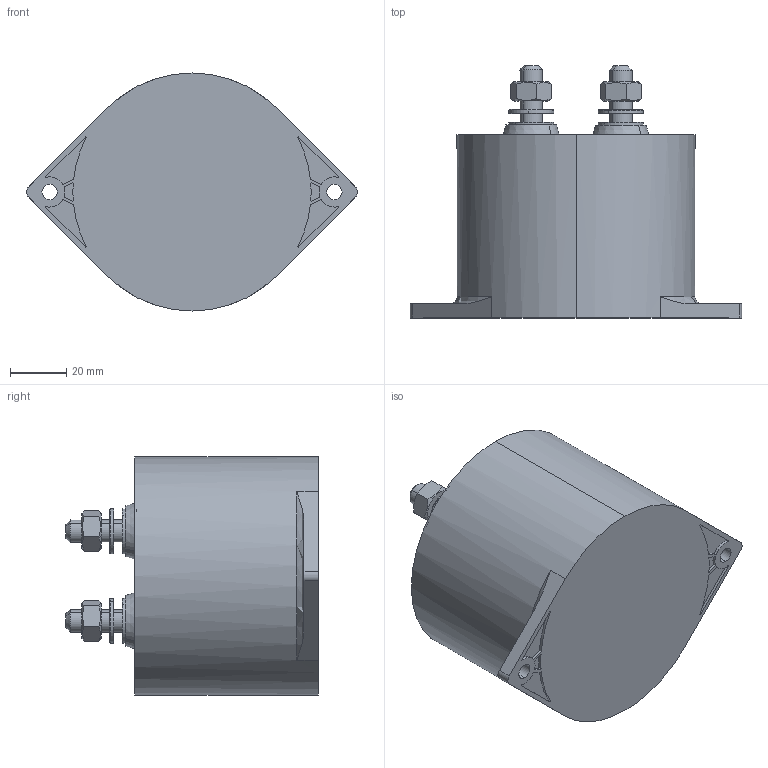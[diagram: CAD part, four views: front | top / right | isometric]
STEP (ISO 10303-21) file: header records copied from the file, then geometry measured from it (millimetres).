
FILE_DESCRIPTION (( 'STEP AP203' ), '1' );
FILE_NAME ('B25631E_65X89.STEP', '2021-11-02T05:13:11', ( '' ), ( '' ), 'SwSTEP 2.0', 'SolidWorks 2017', '' );
FILE_SCHEMA (( 'CONFIG_CONTROL_DESIGN' ));
Length unit declared in the file: millimetre
Products named in the file (1): B25631E_65X89
Bounding box: 117.48 x 89.5 x 84.5 mm (x, y, z)
Volume: 61890.1 mm3; surface area: 60436.2 mm2
Topology: 3 solids, 6 shells, 251 faces, 603 edges, 390 vertices
Faces by surface type: cylinder 113, plane 104, cone 32, torus 2
Entity records: 7660 total; most frequent: CARTESIAN_POINT 1521, DIRECTION 1339, ORIENTED_EDGE 1206, EDGE_CURVE 603, AXIS2_PLACEMENT_3D 512, VERTEX_POINT 390, VECTOR 315, LINE 315
